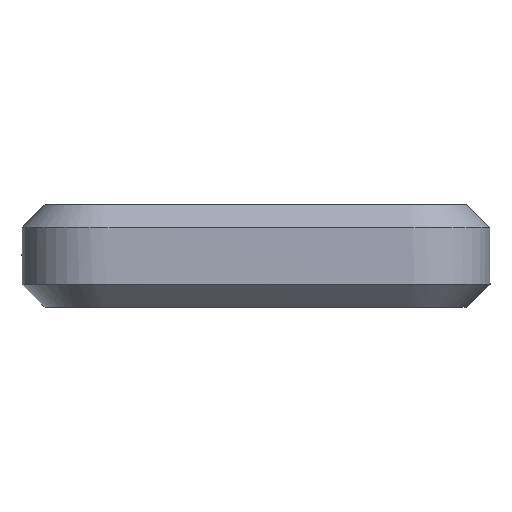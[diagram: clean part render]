
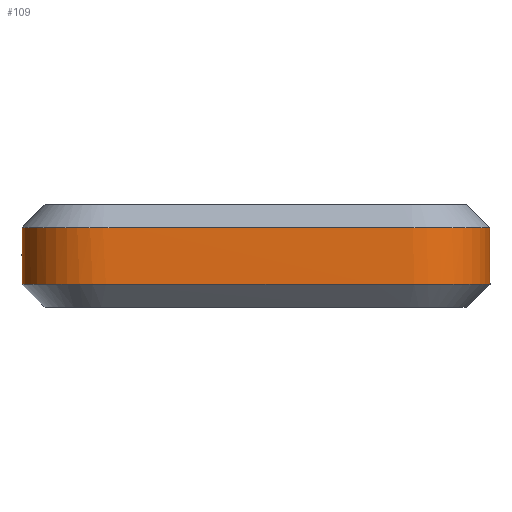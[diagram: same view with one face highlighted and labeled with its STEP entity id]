
A CAD part, left-side view. The second image highlights one B-rep face of the part: STEP entity #109.
In plain terms, the highlighted free-form (B-spline) face has degree [1, 2] with [2, 9] control points.
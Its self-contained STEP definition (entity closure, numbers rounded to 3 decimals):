
#109=ADVANCED_FACE($,(#995),#13282,.T.);
#995=FACE_OUTER_BOUND($,#1881,.T.);
#1881=EDGE_LOOP($,(#2862,#2863,#2864,#2865,#2866,#2867,#2868,#2869));
#2862=ORIENTED_EDGE($,*,*,#10725,.T.);
#2863=ORIENTED_EDGE($,*,*,#8135,.T.);
#2864=ORIENTED_EDGE($,*,*,#8133,.T.);
#2865=ORIENTED_EDGE($,*,*,#8500,.F.);
#2866=ORIENTED_EDGE($,*,*,#10754,.F.);
#2867=ORIENTED_EDGE($,*,*,#8499,.F.);
#2868=ORIENTED_EDGE($,*,*,#8504,.T.);
#2869=ORIENTED_EDGE($,*,*,#10724,.F.);
#8133=EDGE_CURVE($,#10768,#11011,#13598,.T.);
#8135=EDGE_CURVE($,#10769,#10768,#13600,.T.);
#8499=EDGE_CURVE($,#11009,#12482,#13441,.T.);
#8500=EDGE_CURVE($,#11010,#11011,#13442,.T.);
#8504=EDGE_CURVE($,#11009,#12464,#13901,.T.);
#10724=EDGE_CURVE($,#12463,#12464,#15993,.T.);
#10725=EDGE_CURVE($,#12463,#10769,#15994,.T.);
#10754=EDGE_CURVE($,#12482,#11010,#13588,.T.);
#10768=VERTEX_POINT($,#45156);
#10769=VERTEX_POINT($,#45157);
#11009=VERTEX_POINT($,#45397);
#11010=VERTEX_POINT($,#45398);
#11011=VERTEX_POINT($,#45399);
#12463=VERTEX_POINT($,#46851);
#12464=VERTEX_POINT($,#46852);
#12482=VERTEX_POINT($,#46870);
#13282=(
BOUNDED_SURFACE()
B_SPLINE_SURFACE(1,2,((#33377,#33378,#33379,#33380,#33381,#33382,#33383,
#33384,#33385),(#33386,#33387,#33388,#33389,#33390,#33391,#33392,#33393,
#33394)),.UNSPECIFIED.,.F.,.F.,.F.)
B_SPLINE_SURFACE_WITH_KNOTS((2,2),(3,2,2,2,3),(1.951,6.939),(-393.326,
-383.901,-353.444,-344.019,-264.276),
.UNSPECIFIED.)
GEOMETRIC_REPRESENTATION_ITEM()
RATIONAL_B_SPLINE_SURFACE(((1.,0.707,1.,1.,1.,0.707,
1.,1.,1.),(1.,0.707,1.,1.,1.,0.707,1.,1.,1.)))
REPRESENTATION_ITEM($)
SURFACE()
);
#13441=(
BOUNDED_CURVE()
B_SPLINE_CURVE(2,(#19113,#19114,#19115),.UNSPECIFIED.,.F.,.F.)
B_SPLINE_CURVE_WITH_KNOTS((3,3),(-10.802,-8.776),.UNSPECIFIED.)
CURVE()
GEOMETRIC_REPRESENTATION_ITEM()
RATIONAL_B_SPLINE_CURVE((1.,0.936,1.))
REPRESENTATION_ITEM($)
);
#13442=(
BOUNDED_CURVE()
B_SPLINE_CURVE(2,(#19116,#19117,#19118),.UNSPECIFIED.,.F.,.F.)
B_SPLINE_CURVE_WITH_KNOTS((3,3),(0.,2.014),.UNSPECIFIED.)
CURVE()
GEOMETRIC_REPRESENTATION_ITEM()
RATIONAL_B_SPLINE_CURVE((1.,0.936,1.))
REPRESENTATION_ITEM($)
);
#13588=(
BOUNDED_CURVE()
B_SPLINE_CURVE(2,(#33267,#33268,#33269,#33270,#33271),.UNSPECIFIED.,.F.,
.F.)
B_SPLINE_CURVE_WITH_KNOTS((3,2,3),(-8.776,-4.388,0.),
.UNSPECIFIED.)
CURVE()
GEOMETRIC_REPRESENTATION_ITEM()
RATIONAL_B_SPLINE_CURVE((1.,0.707,1.,0.707,1.))
REPRESENTATION_ITEM($)
);
#13598=B_SPLINE_CURVE_WITH_KNOTS($,3,(#17185,#17186,#17187,#17188,#17189,
#17190,#17191,#17192,#17193,#17194,#17195,#17196,#17197,#17198,#17199,#17200,
#17201,#17202,#17203,#17204,#17205,#17206,#17207,#17208,#17209,#17210,#17211),
.UNSPECIFIED.,.F.,.F.,(4,1,1,1,1,1,1,1,3,3,1,1,1,1,1,1,1,3,4),(0.,
0.949,1.97,3.035,4.105,5.176,
6.242,7.267,8.278,34.378,35.327,
36.348,37.413,38.483,39.554,40.62,
41.645,42.656,130.389),.UNSPECIFIED.);
#13600=B_SPLINE_CURVE_WITH_KNOTS($,1,(#17239,#17240),.UNSPECIFIED.,.F.,.F.,
(2,2),(2.,6.89),.UNSPECIFIED.);
#13901=B_SPLINE_CURVE_WITH_KNOTS($,3,(#19253,#19254,#19255,#19256),.UNSPECIFIED.,
.F.,.F.,(4,4),(134.593,136.701),.UNSPECIFIED.);
#15993=B_SPLINE_CURVE_WITH_KNOTS($,1,(#33007,#33008),.UNSPECIFIED.,.F.,.F.,
(2,2),(2.,6.89),.UNSPECIFIED.);
#15994=B_SPLINE_CURVE_WITH_KNOTS($,3,(#33009,#33010,#33011,#33012,#33013,
#33014,#33015,#33016,#33017,#33018,#33019,#33020,#33021,#33022,#33023,#33024,
#33025,#33026,#33027,#33028,#33029,#33030,#33031,#33032,#33033,#33034,#33035),
.UNSPECIFIED.,.F.,.F.,(4,3,1,1,1,1,1,1,1,3,3,1,1,1,1,1,1,1,4),(136.701,
230.746,231.695,232.716,233.781,234.851,
235.922,236.989,238.013,239.024,265.124,
266.073,267.094,268.159,269.229,270.3,
271.367,272.391,273.402),.UNSPECIFIED.);
#17185=CARTESIAN_POINT($,(7.27,0.,6.89));
#17186=CARTESIAN_POINT($,(6.834,0.,6.89));
#17187=CARTESIAN_POINT($,(5.928,0.082,6.89));
#17188=CARTESIAN_POINT($,(4.579,0.465,6.89));
#17189=CARTESIAN_POINT($,(3.282,1.132,6.89));
#17190=CARTESIAN_POINT($,(2.127,2.061,6.89));
#17191=CARTESIAN_POINT($,(1.183,3.204,6.89));
#17192=CARTESIAN_POINT($,(0.499,4.495,6.89));
#17193=CARTESIAN_POINT($,(0.09,5.869,6.89));
#17194=CARTESIAN_POINT($,(0.,6.805,6.89));
#17195=CARTESIAN_POINT($,(0.,7.27,6.89));
#17196=CARTESIAN_POINT($,(0.,15.97,6.89));
#17197=CARTESIAN_POINT($,(0.,24.67,6.89));
#17198=CARTESIAN_POINT($,(0.,33.37,6.89));
#17199=CARTESIAN_POINT($,(0.,33.806,6.89));
#17200=CARTESIAN_POINT($,(0.082,34.712,6.89));
#17201=CARTESIAN_POINT($,(0.465,36.061,6.89));
#17202=CARTESIAN_POINT($,(1.132,37.358,6.89));
#17203=CARTESIAN_POINT($,(2.061,38.513,6.89));
#17204=CARTESIAN_POINT($,(3.204,39.457,6.89));
#17205=CARTESIAN_POINT($,(4.495,40.141,6.89));
#17206=CARTESIAN_POINT($,(5.869,40.55,6.89));
#17207=CARTESIAN_POINT($,(6.805,40.64,6.89));
#17208=CARTESIAN_POINT($,(7.27,40.64,6.89));
#17209=CARTESIAN_POINT($,(36.514,40.64,6.89));
#17210=CARTESIAN_POINT($,(65.759,40.64,6.89));
#17211=CARTESIAN_POINT($,(95.003,40.64,6.89));
#17239=CARTESIAN_POINT($,(7.27,0.,2.));
#17240=CARTESIAN_POINT($,(7.27,0.,6.89));
#19113=CARTESIAN_POINT($,(99.207,40.64,6.89));
#19114=CARTESIAN_POINT($,(99.905,40.64,6.097));
#19115=CARTESIAN_POINT($,(99.905,40.64,5.04));
#19116=CARTESIAN_POINT($,(94.305,40.64,5.04));
#19117=CARTESIAN_POINT($,(94.305,40.64,6.097));
#19118=CARTESIAN_POINT($,(95.003,40.64,6.89));
#19253=CARTESIAN_POINT($,(99.207,40.64,6.89));
#19254=CARTESIAN_POINT($,(99.91,40.64,6.89));
#19255=CARTESIAN_POINT($,(100.612,40.64,6.89));
#19256=CARTESIAN_POINT($,(101.315,40.64,6.89));
#33007=CARTESIAN_POINT($,(101.315,40.64,2.));
#33008=CARTESIAN_POINT($,(101.315,40.64,6.89));
#33009=CARTESIAN_POINT($,(101.315,40.64,2.));
#33010=CARTESIAN_POINT($,(69.967,40.64,2.));
#33011=CARTESIAN_POINT($,(38.618,40.64,2.));
#33012=CARTESIAN_POINT($,(7.27,40.64,2.));
#33013=CARTESIAN_POINT($,(6.834,40.64,2.));
#33014=CARTESIAN_POINT($,(5.928,40.558,2.));
#33015=CARTESIAN_POINT($,(4.579,40.175,2.));
#33016=CARTESIAN_POINT($,(3.282,39.508,2.));
#33017=CARTESIAN_POINT($,(2.127,38.579,2.));
#33018=CARTESIAN_POINT($,(1.183,37.436,2.));
#33019=CARTESIAN_POINT($,(0.499,36.145,2.));
#33020=CARTESIAN_POINT($,(0.09,34.771,2.));
#33021=CARTESIAN_POINT($,(0.,33.835,2.));
#33022=CARTESIAN_POINT($,(0.,33.37,2.));
#33023=CARTESIAN_POINT($,(0.,24.67,2.));
#33024=CARTESIAN_POINT($,(0.,15.97,2.));
#33025=CARTESIAN_POINT($,(0.,7.27,2.));
#33026=CARTESIAN_POINT($,(0.,6.834,2.));
#33027=CARTESIAN_POINT($,(0.082,5.928,2.));
#33028=CARTESIAN_POINT($,(0.465,4.579,2.));
#33029=CARTESIAN_POINT($,(1.132,3.282,2.));
#33030=CARTESIAN_POINT($,(2.061,2.127,2.));
#33031=CARTESIAN_POINT($,(3.204,1.183,2.));
#33032=CARTESIAN_POINT($,(4.495,0.499,2.));
#33033=CARTESIAN_POINT($,(5.869,0.09,2.));
#33034=CARTESIAN_POINT($,(6.805,0.,2.));
#33035=CARTESIAN_POINT($,(7.27,0.,2.));
#33267=CARTESIAN_POINT($,(99.905,40.64,5.04));
#33268=CARTESIAN_POINT($,(99.905,40.64,2.24));
#33269=CARTESIAN_POINT($,(97.105,40.64,2.24));
#33270=CARTESIAN_POINT($,(94.305,40.64,2.24));
#33271=CARTESIAN_POINT($,(94.305,40.64,5.04));
#33377=CARTESIAN_POINT($,(7.27,0.,1.951));
#33378=CARTESIAN_POINT($,(0.,0.,1.951));
#33379=CARTESIAN_POINT($,(0.,7.27,1.951));
#33380=CARTESIAN_POINT($,(0.,20.32,1.951));
#33381=CARTESIAN_POINT($,(0.,33.37,1.951));
#33382=CARTESIAN_POINT($,(0.,40.64,1.951));
#33383=CARTESIAN_POINT($,(7.27,40.64,1.951));
#33384=CARTESIAN_POINT($,(54.293,40.64,1.951));
#33385=CARTESIAN_POINT($,(101.315,40.64,1.951));
#33386=CARTESIAN_POINT($,(7.27,0.,6.939));
#33387=CARTESIAN_POINT($,(0.,0.,6.939));
#33388=CARTESIAN_POINT($,(0.,7.27,6.939));
#33389=CARTESIAN_POINT($,(0.,20.32,6.939));
#33390=CARTESIAN_POINT($,(0.,33.37,6.939));
#33391=CARTESIAN_POINT($,(0.,40.64,6.939));
#33392=CARTESIAN_POINT($,(7.27,40.64,6.939));
#33393=CARTESIAN_POINT($,(54.293,40.64,6.939));
#33394=CARTESIAN_POINT($,(101.315,40.64,6.939));
#45156=CARTESIAN_POINT($,(7.27,0.,6.89));
#45157=CARTESIAN_POINT($,(7.27,0.,2.));
#45397=CARTESIAN_POINT($,(99.207,40.64,6.89));
#45398=CARTESIAN_POINT($,(94.305,40.64,5.04));
#45399=CARTESIAN_POINT($,(95.003,40.64,6.89));
#46851=CARTESIAN_POINT($,(101.315,40.64,2.));
#46852=CARTESIAN_POINT($,(101.315,40.64,6.89));
#46870=CARTESIAN_POINT($,(99.905,40.64,5.04));
